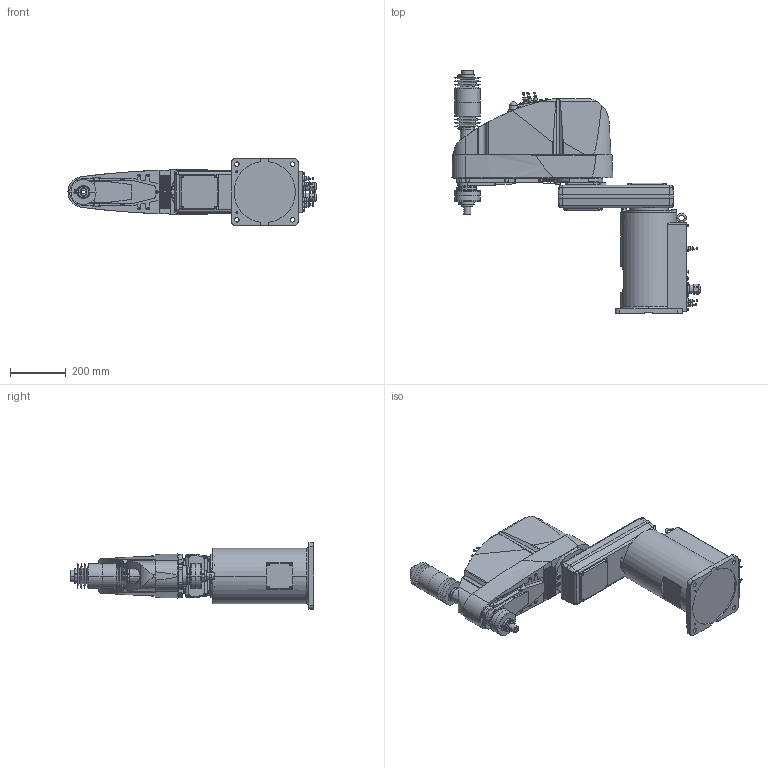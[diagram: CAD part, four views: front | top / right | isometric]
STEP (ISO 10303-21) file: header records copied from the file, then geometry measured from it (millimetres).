
FILE_DESCRIPTION( ( '' ), '1' );
FILE_NAME( '//expscmdclustefs.cadenas.external/client_exchange/iodir/jobs/output/wkb51511784_no0/STEP/G10_651P_2_14b.stp', '2012-11-22T15:19:43', ( '' ), ( '' ), ' ', ' ', ' ' );
FILE_SCHEMA( ( 'automotive_design' ) );
Length unit declared in the file: millimetre
Products named in the file (8): 1; 2; 3; 4; 5; 6; 7; 8
Bounding box: 889.5 x 874 x 240 mm (x, y, z)
Volume: 39307722.4 mm3; surface area: 1579008.4 mm2
Topology: 8 solids, 9 shells, 2212 faces, 5381 edges, 3458 vertices
Faces by surface type: plane 1161, cylinder 721, cone 286, torus 43, sphere 1
Entity records: 128860 total; most frequent: CARTESIAN_POINT 13584, DIRECTION 11467, STYLED_ITEM 11047, PRESENTATION_STYLE_ASSIGNMENT 11047, COLOUR_RGB 11047, ORIENTED_EDGE 10738, EDGE_CURVE 5369, CURVE_STYLE 5369
